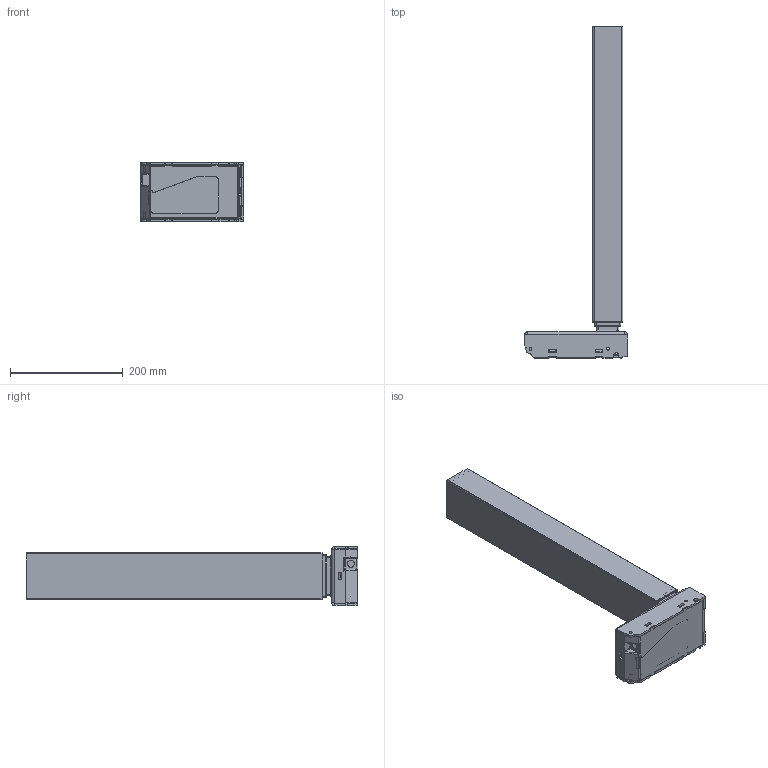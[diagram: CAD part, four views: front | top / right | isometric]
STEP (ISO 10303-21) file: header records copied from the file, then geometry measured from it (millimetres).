
FILE_DESCRIPTION (( 'STEP AP203' ), '1' );
FILE_NAME ('3D_TL33S.STEP', '2025-02-24T02:57:24', ( '' ), ( '' ), 'SwSTEP 2.0', 'SolidWorks 2015', '' );
FILE_SCHEMA (( 'CONFIG_CONTROL_DESIGN' ));
Products named in the file (1): 3D_TL33S
Bounding box: 183.5 x 589.9 x 105.5 mm (x, y, z)
Volume: 764043.3 mm3; surface area: 885506.6 mm2
Topology: 16 solids, 16 shells, 2792 faces, 7056 edges, 4149 vertices
Faces by surface type: cylinder 1208, plane 851, torus 330, bspline 230, sphere 129, cone 44
Entity records: 93380 total; most frequent: CARTESIAN_POINT 28744, ORIENTED_EDGE 13862, DIRECTION 13441, EDGE_CURVE 6931, AXIS2_PLACEMENT_3D 4939, VERTEX_POINT 4149, LINE 3563, VECTOR 3563
